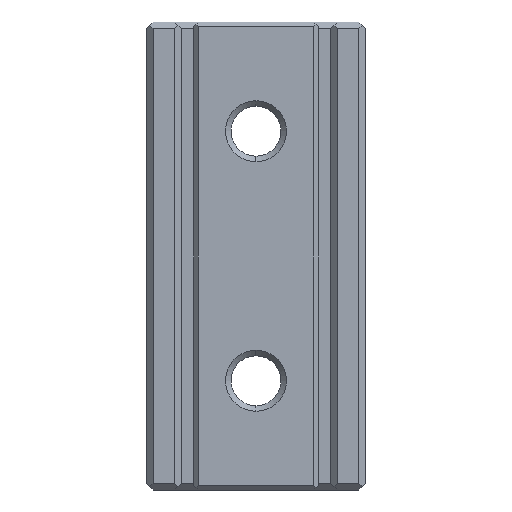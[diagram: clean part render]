
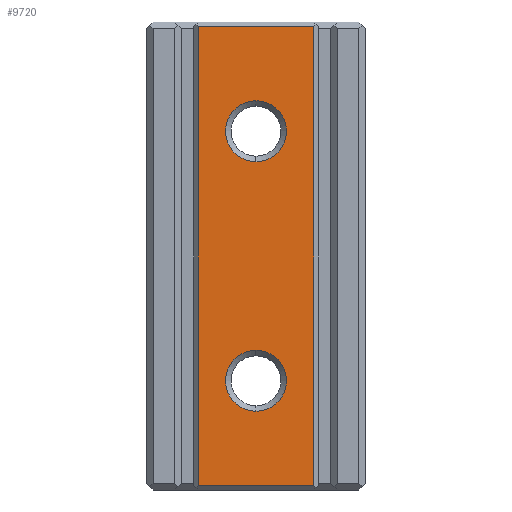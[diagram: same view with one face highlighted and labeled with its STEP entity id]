
A CAD part, front view. The second image highlights one B-rep face of the part: STEP entity #9720.
In plain terms, the highlighted planar face has unit normal (0, -1, 0).
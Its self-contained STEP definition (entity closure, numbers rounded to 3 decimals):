
#342 = CARTESIAN_POINT ( 'NONE',  ( 1.85, -0.4, -7.35 ) ) ;
#345 = LINE ( 'NONE', #342, #8625 ) ;
#346 = CARTESIAN_POINT ( 'NONE',  ( 0., -0.4, 4. ) ) ;
#347 = DIRECTION ( 'NONE',  ( 0., 1., 0. ) ) ;
#348 = DIRECTION ( 'NONE',  ( 0., 0., 1. ) ) ;
#350 = DIRECTION ( 'NONE',  ( 1., 0., 0. ) ) ;
#671 = EDGE_CURVE ( 'NONE', #8393, #8384, #8632, .T. ) ;
#672 = EDGE_CURVE ( 'NONE', #8382, #8406, #345, .T. ) ;
#678 = EDGE_CURVE ( 'NONE', #8410, #8406, #1337, .T. ) ;
#705 = EDGE_CURVE ( 'NONE', #8391, #8382, #1398, .T. ) ;
#707 = EDGE_CURVE ( 'NONE', #8414, #8389, #10440, .T. ) ;
#708 = EDGE_CURVE ( 'NONE', #8410, #8391, #1425, .T. ) ;
#1337 = LINE ( 'NONE', #1339, #8636 ) ;
#1339 = CARTESIAN_POINT ( 'NONE',  ( 1.85, -0.4, 12.018 ) ) ;
#1340 = DIRECTION ( 'NONE',  ( 0., 0., -1. ) ) ;
#1398 = LINE ( 'NONE', #1418, #10433 ) ;
#1415 = CARTESIAN_POINT ( 'NONE',  ( -1.85, -0.4, 7.35 ) ) ;
#1418 = CARTESIAN_POINT ( 'NONE',  ( -1.85, -0.4, 12.018 ) ) ;
#1419 = DIRECTION ( 'NONE',  ( 0., 0., -1. ) ) ;
#1425 = LINE ( 'NONE', #1415, #10438 ) ;
#1426 = CARTESIAN_POINT ( 'NONE',  ( 0., -0.4, -4. ) ) ;
#1427 = DIRECTION ( 'NONE',  ( 0., 1., 0. ) ) ;
#1428 = DIRECTION ( 'NONE',  ( 0., 0., 1. ) ) ;
#1429 = DIRECTION ( 'NONE',  ( -1., 0., 0. ) ) ;
#5837 = CARTESIAN_POINT ( 'NONE',  ( 0., -0.4, 3.025 ) ) ;
#5838 = CARTESIAN_POINT ( 'NONE',  ( -1.85, -0.4, -7.35 ) ) ;
#5842 = CARTESIAN_POINT ( 'NONE',  ( 0., -0.4, -4.975 ) ) ;
#5844 = CARTESIAN_POINT ( 'NONE',  ( -1.85, -0.4, 7.35 ) ) ;
#5846 = CARTESIAN_POINT ( 'NONE',  ( 0., -0.4, 4.975 ) ) ;
#5859 = CARTESIAN_POINT ( 'NONE',  ( 1.85, -0.4, -7.35 ) ) ;
#5863 = CARTESIAN_POINT ( 'NONE',  ( 1.85, -0.4, 7.35 ) ) ;
#5867 = CARTESIAN_POINT ( 'NONE',  ( 0., -0.4, -3.025 ) ) ;
#5920 = CARTESIAN_POINT ( 'NONE',  ( 0., -0.4, -4. ) ) ;
#5921 = DIRECTION ( 'NONE',  ( 0., 1., 0. ) ) ;
#5922 = DIRECTION ( 'NONE',  ( 0., 0., 1. ) ) ;
#5930 = CARTESIAN_POINT ( 'NONE',  ( 0., -0.4, 4. ) ) ;
#5931 = DIRECTION ( 'NONE',  ( 0., 1., 0. ) ) ;
#5932 = DIRECTION ( 'NONE',  ( 0., 0., 1. ) ) ;
#6373 = AXIS2_PLACEMENT_3D ( 'NONE', #11402, #11397, #11406 ) ;
#7575 = CIRCLE ( 'NONE', #7585, 0.975 ) ;
#7585 = AXIS2_PLACEMENT_3D ( 'NONE', #5920, #5921, #5922 ) ;
#7586 = CIRCLE ( 'NONE', #7589, 0.975 ) ;
#7589 = AXIS2_PLACEMENT_3D ( 'NONE', #5930, #5931, #5932 ) ;
#8382 = VERTEX_POINT ( 'NONE', #5838 ) ;
#8384 = VERTEX_POINT ( 'NONE', #5837 ) ;
#8389 = VERTEX_POINT ( 'NONE', #5842 ) ;
#8391 = VERTEX_POINT ( 'NONE', #5844 ) ;
#8393 = VERTEX_POINT ( 'NONE', #5846 ) ;
#8406 = VERTEX_POINT ( 'NONE', #5859 ) ;
#8410 = VERTEX_POINT ( 'NONE', #5863 ) ;
#8414 = VERTEX_POINT ( 'NONE', #5867 ) ;
#8624 = AXIS2_PLACEMENT_3D ( 'NONE', #346, #347, #348 ) ;
#8625 = VECTOR ( 'NONE', #350, 1000. ) ;
#8632 = CIRCLE ( 'NONE', #8624, 0.975 ) ;
#8636 = VECTOR ( 'NONE', #1340, 1000. ) ;
#8995 = EDGE_LOOP ( 'NONE', ( #9080, #9079 ) ) ;
#9015 = EDGE_LOOP ( 'NONE', ( #9078, #9077 ) ) ;
#9032 = EDGE_LOOP ( 'NONE', ( #9076, #9075, #9074, #9083 ) ) ;
#9074 = ORIENTED_EDGE ( 'NONE', *, *, #678, .F. ) ;
#9075 = ORIENTED_EDGE ( 'NONE', *, *, #672, .T. ) ;
#9076 = ORIENTED_EDGE ( 'NONE', *, *, #705, .T. ) ;
#9077 = ORIENTED_EDGE ( 'NONE', *, *, #671, .T. ) ;
#9078 = ORIENTED_EDGE ( 'NONE', *, *, #9423, .T. ) ;
#9079 = ORIENTED_EDGE ( 'NONE', *, *, #707, .T. ) ;
#9080 = ORIENTED_EDGE ( 'NONE', *, *, #9421, .T. ) ;
#9083 = ORIENTED_EDGE ( 'NONE', *, *, #708, .T. ) ;
#9421 = EDGE_CURVE ( 'NONE', #8389, #8414, #7575, .T. ) ;
#9423 = EDGE_CURVE ( 'NONE', #8384, #8393, #7586, .T. ) ;
#9720 = ADVANCED_FACE ( 'NONE', ( #11401, #11394, #11404 ), #11405, .F. ) ;
#10433 = VECTOR ( 'NONE', #1419, 1000. ) ;
#10438 = VECTOR ( 'NONE', #1429, 1000. ) ;
#10440 = CIRCLE ( 'NONE', #10442, 0.975 ) ;
#10442 = AXIS2_PLACEMENT_3D ( 'NONE', #1426, #1427, #1428 ) ;
#11394 = FACE_BOUND ( 'NONE', #9015, .T. ) ;
#11397 = DIRECTION ( 'NONE',  ( 0., 1., 0. ) ) ;
#11401 = FACE_BOUND ( 'NONE', #8995, .T. ) ;
#11402 = CARTESIAN_POINT ( 'NONE',  ( -1.85, -0.4, 12.018 ) ) ;
#11404 = FACE_OUTER_BOUND ( 'NONE', #9032, .T. ) ;
#11405 = PLANE ( 'NONE',  #6373 ) ;
#11406 = DIRECTION ( 'NONE',  ( 0., 0., 1. ) ) ;
